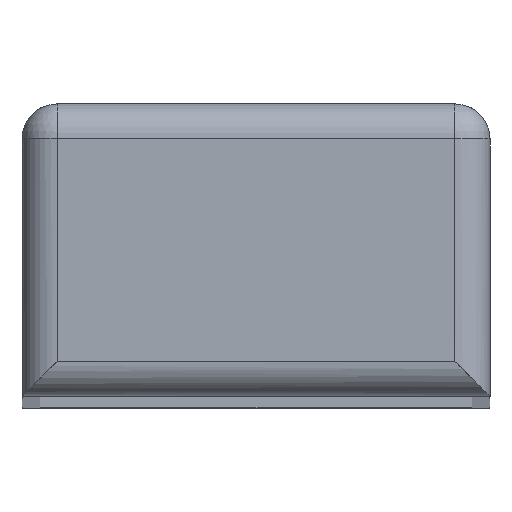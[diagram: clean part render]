
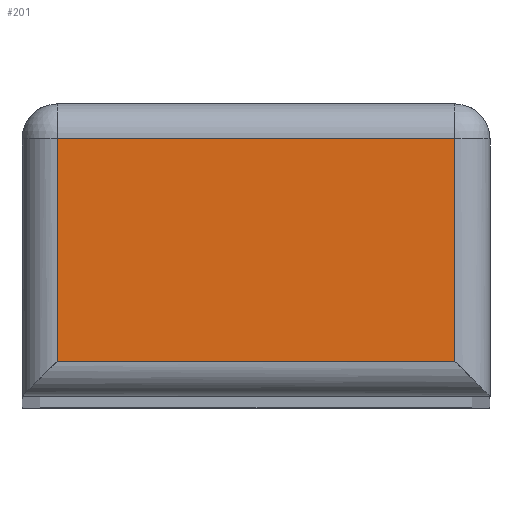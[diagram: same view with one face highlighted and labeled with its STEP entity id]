
A CAD part, top view. The second image highlights one B-rep face of the part: STEP entity #201.
In plain terms, the highlighted planar face has unit normal (0, 0, 1).
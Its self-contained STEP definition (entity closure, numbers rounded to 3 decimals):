
#1 = FACE_OUTER_BOUND ( 'NONE', #63, .T. ) ;
#11 = AXIS2_PLACEMENT_3D ( 'NONE', #860, #863, #875 ) ;
#56 = VERTEX_POINT ( 'NONE', #820 ) ;
#63 = EDGE_LOOP ( 'NONE', ( #694, #688, #690, #689 ) ) ;
#73 = VERTEX_POINT ( 'NONE', #840 ) ;
#75 = VERTEX_POINT ( 'NONE', #845 ) ;
#106 = VERTEX_POINT ( 'NONE', #734 ) ;
#201 = ADVANCED_FACE ( 'NONE', ( #1 ), #862, .T. ) ;
#227 = EDGE_CURVE ( 'NONE', #73, #56, #406, .T. ) ;
#230 = EDGE_CURVE ( 'NONE', #75, #106, #415, .T. ) ;
#254 = EDGE_CURVE ( 'NONE', #106, #73, #491, .T. ) ;
#295 = EDGE_CURVE ( 'NONE', #56, #75, #619, .T. ) ;
#406 = LINE ( 'NONE', #407, #925 ) ;
#407 = CARTESIAN_POINT ( 'NONE',  ( 13.6, -20., 232. ) ) ;
#408 = DIRECTION ( 'NONE',  ( 0., 1., 0. ) ) ;
#415 = LINE ( 'NONE', #416, #904 ) ;
#416 = CARTESIAN_POINT ( 'NONE',  ( -13.6, -20., 232. ) ) ;
#417 = DIRECTION ( 'NONE',  ( 0., -1., 0. ) ) ;
#491 = LINE ( 'NONE', #492, #698 ) ;
#492 = CARTESIAN_POINT ( 'NONE',  ( 16., -17.6, 232. ) ) ;
#493 = DIRECTION ( 'NONE',  ( 1., 0., 0. ) ) ;
#619 = LINE ( 'NONE', #620, #1027 ) ;
#620 = CARTESIAN_POINT ( 'NONE',  ( -16., -2.4, 232. ) ) ;
#621 = DIRECTION ( 'NONE',  ( -1., 0., 0. ) ) ;
#688 = ORIENTED_EDGE ( 'NONE', *, *, #295, .T. ) ;
#689 = ORIENTED_EDGE ( 'NONE', *, *, #254, .T. ) ;
#690 = ORIENTED_EDGE ( 'NONE', *, *, #230, .T. ) ;
#694 = ORIENTED_EDGE ( 'NONE', *, *, #227, .T. ) ;
#698 = VECTOR ( 'NONE', #493, 1000. ) ;
#734 = CARTESIAN_POINT ( 'NONE',  ( -13.6, -17.6, 232. ) ) ;
#820 = CARTESIAN_POINT ( 'NONE',  ( 13.6, -2.4, 232. ) ) ;
#840 = CARTESIAN_POINT ( 'NONE',  ( 13.6, -17.6, 232. ) ) ;
#845 = CARTESIAN_POINT ( 'NONE',  ( -13.6, -2.4, 232. ) ) ;
#860 = CARTESIAN_POINT ( 'NONE',  ( -16., -20., 232. ) ) ;
#862 = PLANE ( 'NONE',  #11 ) ;
#863 = DIRECTION ( 'NONE',  ( 0., 0., 1. ) ) ;
#875 = DIRECTION ( 'NONE',  ( 1., 0., 0. ) ) ;
#904 = VECTOR ( 'NONE', #417, 1000. ) ;
#925 = VECTOR ( 'NONE', #408, 1000. ) ;
#1027 = VECTOR ( 'NONE', #621, 1000. ) ;
